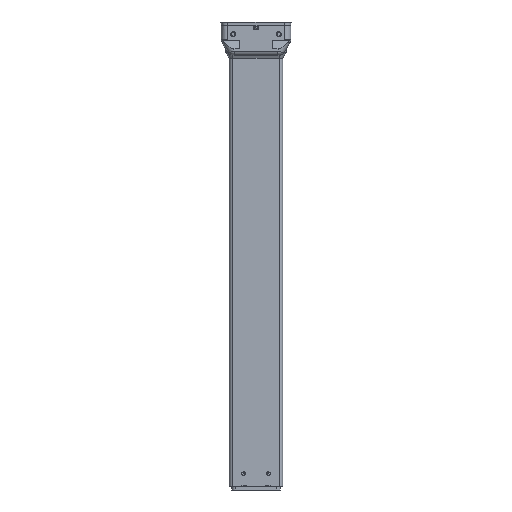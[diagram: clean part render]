
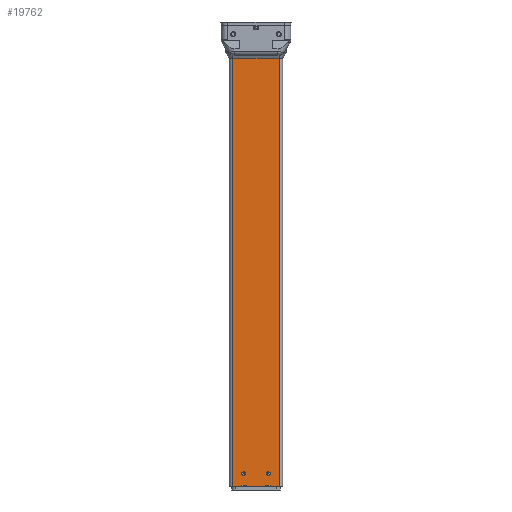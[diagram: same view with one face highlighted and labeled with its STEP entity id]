
A CAD part, front view. The second image highlights one B-rep face of the part: STEP entity #19762.
In plain terms, the highlighted planar face has unit normal (0, -1, 0).
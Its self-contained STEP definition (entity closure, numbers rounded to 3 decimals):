
#3639=CARTESIAN_POINT('',(19.75,-21.75,-638.9));
#3640=DIRECTION('',(0.,-1.,0.));
#3641=DIRECTION('',(1.,0.,0.));
#3642=AXIS2_PLACEMENT_3D('',#3639,#3640,#3641);
#3644=CARTESIAN_POINT('',(14.25,-21.75,-638.9));
#3645=DIRECTION('',(0.,-1.,0.));
#3646=DIRECTION('',(0.,0.,1.));
#3647=AXIS2_PLACEMENT_3D('',#3644,#3645,#3646);
#3649=CARTESIAN_POINT('',(-14.25,-21.75,-638.9));
#3650=DIRECTION('',(0.,-1.,0.));
#3651=DIRECTION('',(1.,0.,0.));
#3652=AXIS2_PLACEMENT_3D('',#3649,#3650,#3651);
#3654=CARTESIAN_POINT('',(-19.75,-21.75,-638.9));
#3655=DIRECTION('',(0.,-1.,0.));
#3656=DIRECTION('',(0.,0.,1.));
#3657=AXIS2_PLACEMENT_3D('',#3654,#3655,#3656);
#3659=DIRECTION('',(-1.,0.,0.));
#3660=VECTOR('',#3659,11.5);
#3661=CARTESIAN_POINT('',(-20.25,-21.75,-640.));
#3662=LINE('',#3661,#3660);
#3663=DIRECTION('',(0.,0.,1.));
#3664=VECTOR('',#3663,590.);
#3665=CARTESIAN_POINT('',(-31.75,-21.75,-640.));
#3666=LINE('',#3665,#3664);
#3667=CARTESIAN_POINT('',(-17.,-21.75,-622.6));
#3668=DIRECTION('',(0.,-1.,0.));
#3669=DIRECTION('',(-1.,0.,0.));
#3670=AXIS2_PLACEMENT_3D('',#3667,#3668,#3669);
#3672=CARTESIAN_POINT('',(-17.,-21.75,-622.6));
#3673=DIRECTION('',(0.,-1.,0.));
#3674=DIRECTION('',(1.,0.,0.));
#3675=AXIS2_PLACEMENT_3D('',#3672,#3673,#3674);
#3677=CARTESIAN_POINT('',(17.,-21.75,-622.6));
#3678=DIRECTION('',(0.,-1.,0.));
#3679=DIRECTION('',(-1.,0.,0.));
#3680=AXIS2_PLACEMENT_3D('',#3677,#3678,#3679);
#3682=CARTESIAN_POINT('',(17.,-21.75,-622.6));
#3683=DIRECTION('',(0.,-1.,0.));
#3684=DIRECTION('',(1.,0.,0.));
#3685=AXIS2_PLACEMENT_3D('',#3682,#3683,#3684);
#3691=DIRECTION('',(0.,0.,1.));
#3692=VECTOR('',#3691,590.);
#3693=CARTESIAN_POINT('',(31.75,-21.75,-640.));
#3694=LINE('',#3693,#3692);
#3740=DIRECTION('',(-1.,0.,0.));
#3741=VECTOR('',#3740,63.5);
#3742=CARTESIAN_POINT('',(31.75,-21.75,-50.));
#3743=LINE('',#3742,#3741);
#3908=DIRECTION('',(1.,0.,0.));
#3909=VECTOR('',#3908,11.5);
#3910=CARTESIAN_POINT('',(20.25,-21.75,-640.));
#3911=LINE('',#3910,#3909);
#5066=DIRECTION('',(0.,0.,1.));
#5067=VECTOR('',#5066,1.1);
#5068=CARTESIAN_POINT('',(-20.25,-21.75,-640.));
#5069=LINE('',#5068,#5067);
#5078=DIRECTION('',(1.,0.,0.));
#5079=VECTOR('',#5078,5.5);
#5080=CARTESIAN_POINT('',(-19.75,-21.75,-638.4));
#5081=LINE('',#5080,#5079);
#5094=DIRECTION('',(0.,0.,-1.));
#5095=VECTOR('',#5094,1.1);
#5096=CARTESIAN_POINT('',(-13.75,-21.75,-638.9));
#5097=LINE('',#5096,#5095);
#5110=DIRECTION('',(1.,0.,0.));
#5111=VECTOR('',#5110,27.5);
#5112=CARTESIAN_POINT('',(-13.75,-21.75,-640.));
#5113=LINE('',#5112,#5111);
#5122=DIRECTION('',(0.,0.,1.));
#5123=VECTOR('',#5122,1.1);
#5124=CARTESIAN_POINT('',(13.75,-21.75,-640.));
#5125=LINE('',#5124,#5123);
#5134=DIRECTION('',(1.,0.,0.));
#5135=VECTOR('',#5134,5.5);
#5136=CARTESIAN_POINT('',(14.25,-21.75,-638.4));
#5137=LINE('',#5136,#5135);
#5150=DIRECTION('',(0.,0.,-1.));
#5151=VECTOR('',#5150,1.1);
#5152=CARTESIAN_POINT('',(20.25,-21.75,-638.9));
#5153=LINE('',#5152,#5151);
#10151=CARTESIAN_POINT('',(-31.75,-21.75,-50.));
#10152=VERTEX_POINT('',#10151);
#10259=CARTESIAN_POINT('',(-31.75,-21.75,-640.));
#10260=VERTEX_POINT('',#10259);
#10265=CARTESIAN_POINT('',(20.25,-21.75,-638.9));
#10266=CARTESIAN_POINT('',(19.75,-21.75,-638.4));
#10267=VERTEX_POINT('',#10265);
#10268=VERTEX_POINT('',#10266);
#10269=CARTESIAN_POINT('',(14.25,-21.75,-638.4));
#10270=CARTESIAN_POINT('',(13.75,-21.75,-638.9));
#10271=VERTEX_POINT('',#10269);
#10272=VERTEX_POINT('',#10270);
#10273=CARTESIAN_POINT('',(-13.75,-21.75,-638.9));
#10274=CARTESIAN_POINT('',(-14.25,-21.75,-638.4));
#10275=VERTEX_POINT('',#10273);
#10276=VERTEX_POINT('',#10274);
#10277=CARTESIAN_POINT('',(-19.75,-21.75,-638.4));
#10278=CARTESIAN_POINT('',(-20.25,-21.75,-638.9));
#10279=VERTEX_POINT('',#10277);
#10280=VERTEX_POINT('',#10278);
#10281=CARTESIAN_POINT('',(-20.25,-21.75,-640.));
#10282=VERTEX_POINT('',#10281);
#10283=CARTESIAN_POINT('',(-19.65,-21.75,-622.6));
#10284=CARTESIAN_POINT('',(-14.35,-21.75,-622.6));
#10285=VERTEX_POINT('',#10283);
#10286=VERTEX_POINT('',#10284);
#10287=CARTESIAN_POINT('',(14.35,-21.75,-622.6));
#10288=CARTESIAN_POINT('',(19.65,-21.75,-622.6));
#10289=VERTEX_POINT('',#10287);
#10290=VERTEX_POINT('',#10288);
#10291=CARTESIAN_POINT('',(31.75,-21.75,-640.));
#10292=CARTESIAN_POINT('',(31.75,-21.75,-50.));
#10293=VERTEX_POINT('',#10291);
#10294=VERTEX_POINT('',#10292);
#10303=CARTESIAN_POINT('',(20.25,-21.75,-640.));
#10304=VERTEX_POINT('',#10303);
#10633=CARTESIAN_POINT('',(-13.75,-21.75,-640.));
#10634=VERTEX_POINT('',#10633);
#10638=CARTESIAN_POINT('',(13.75,-21.75,-640.));
#10640=VERTEX_POINT('',#10638);
#19713=CARTESIAN_POINT('',(0.,-21.75,-345.));
#19714=DIRECTION('',(0.,1.,0.));
#19715=DIRECTION('',(1.,0.,0.));
#19716=AXIS2_PLACEMENT_3D('',#19713,#19714,#19715);
#19717=PLANE('',#19716);
#19719=ORIENTED_EDGE('',*,*,#19718,.F.);
#19721=ORIENTED_EDGE('',*,*,#19720,.F.);
#19723=ORIENTED_EDGE('',*,*,#19722,.F.);
#19725=ORIENTED_EDGE('',*,*,#19724,.T.);
#19727=ORIENTED_EDGE('',*,*,#19726,.F.);
#19729=ORIENTED_EDGE('',*,*,#19728,.T.);
#19731=ORIENTED_EDGE('',*,*,#19730,.F.);
#19733=ORIENTED_EDGE('',*,*,#19732,.F.);
#19735=ORIENTED_EDGE('',*,*,#19734,.F.);
#19737=ORIENTED_EDGE('',*,*,#19736,.T.);
#19739=ORIENTED_EDGE('',*,*,#19738,.F.);
#19741=ORIENTED_EDGE('',*,*,#19740,.T.);
#19743=ORIENTED_EDGE('',*,*,#19742,.F.);
#19744=ORIENTED_EDGE('',*,*,#19700,.T.);
#19745=ORIENTED_EDGE('',*,*,#13130,.T.);
#19747=ORIENTED_EDGE('',*,*,#19746,.F.);
#19748=EDGE_LOOP('',(#19719,#19721,#19723,#19725,#19727,#19729,#19731,#19733,
#19735,#19737,#19739,#19741,#19743,#19744,#19745,#19747));
#19749=FACE_OUTER_BOUND('',#19748,.F.);
#19751=ORIENTED_EDGE('',*,*,#19750,.T.);
#19753=ORIENTED_EDGE('',*,*,#19752,.T.);
#19754=EDGE_LOOP('',(#19751,#19753));
#19755=FACE_BOUND('',#19754,.F.);
#19757=ORIENTED_EDGE('',*,*,#19756,.T.);
#19759=ORIENTED_EDGE('',*,*,#19758,.T.);
#19760=EDGE_LOOP('',(#19757,#19759));
#19761=FACE_BOUND('',#19760,.F.);
#19762=ADVANCED_FACE('',(#19749,#19755,#19761),#19717,.F.);
#3643=CIRCLE('',#3642,0.5);
#3648=CIRCLE('',#3647,0.5);
#3653=CIRCLE('',#3652,0.5);
#3658=CIRCLE('',#3657,0.5);
#3671=CIRCLE('',#3670,2.65);
#3676=CIRCLE('',#3675,2.65);
#3681=CIRCLE('',#3680,2.65);
#3686=CIRCLE('',#3685,2.65);
#13130=EDGE_CURVE('',#10260,#10152,#3666,.T.);
#19700=EDGE_CURVE('',#10282,#10260,#3662,.T.);
#19718=EDGE_CURVE('',#10293,#10294,#3694,.T.);
#19720=EDGE_CURVE('',#10304,#10293,#3911,.T.);
#19722=EDGE_CURVE('',#10267,#10304,#5153,.T.);
#19724=EDGE_CURVE('',#10267,#10268,#3643,.T.);
#19726=EDGE_CURVE('',#10271,#10268,#5137,.T.);
#19728=EDGE_CURVE('',#10271,#10272,#3648,.T.);
#19730=EDGE_CURVE('',#10640,#10272,#5125,.T.);
#19732=EDGE_CURVE('',#10634,#10640,#5113,.T.);
#19734=EDGE_CURVE('',#10275,#10634,#5097,.T.);
#19736=EDGE_CURVE('',#10275,#10276,#3653,.T.);
#19738=EDGE_CURVE('',#10279,#10276,#5081,.T.);
#19740=EDGE_CURVE('',#10279,#10280,#3658,.T.);
#19742=EDGE_CURVE('',#10282,#10280,#5069,.T.);
#19746=EDGE_CURVE('',#10294,#10152,#3743,.T.);
#19750=EDGE_CURVE('',#10285,#10286,#3671,.T.);
#19752=EDGE_CURVE('',#10286,#10285,#3676,.T.);
#19756=EDGE_CURVE('',#10289,#10290,#3681,.T.);
#19758=EDGE_CURVE('',#10290,#10289,#3686,.T.);
